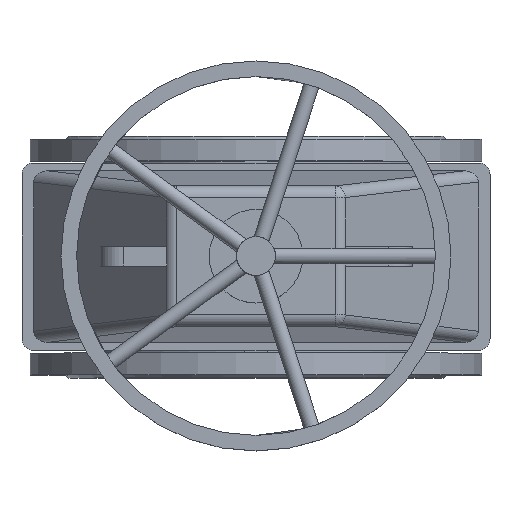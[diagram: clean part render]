
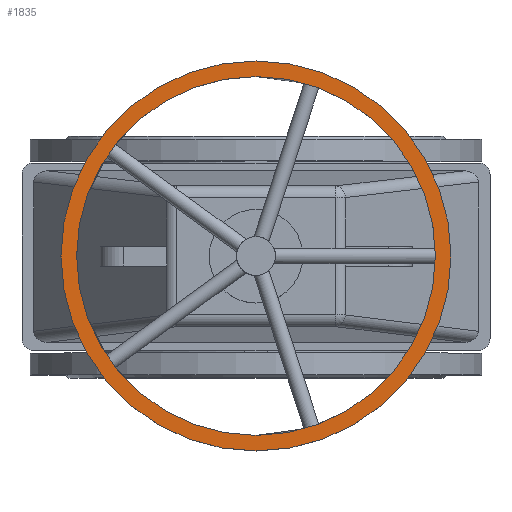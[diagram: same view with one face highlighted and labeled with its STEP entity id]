
A CAD part, top view. The second image highlights one B-rep face of the part: STEP entity #1835.
In plain terms, the highlighted planar face has unit normal (0, 0, 1).
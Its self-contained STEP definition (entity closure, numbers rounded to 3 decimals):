
#1835=ADVANCED_FACE('',(#4340,#4342),#4344,.T.);
#4340=FACE_BOUND('',#4341,.T.);
#4341=EDGE_LOOP('',(#5285));
#4342=FACE_BOUND('',#4343,.T.);
#4343=EDGE_LOOP('',(#5286));
#4344=PLANE('',#4345);
#4345=AXIS2_PLACEMENT_3D('',#4346,#4347,#4348);
#4346=CARTESIAN_POINT('',(0.,0.,950.5));
#4347=DIRECTION('',(0.,0.,1.));
#4348=DIRECTION('',(0.,-1.,0.));
#5285=ORIENTED_EDGE('',*,*,#5751,.T.);
#5286=ORIENTED_EDGE('',*,*,#5749,.T.);
#5749=EDGE_CURVE('',#6531,#6531,#6532,.F.);
#5751=EDGE_CURVE('',#6535,#6535,#6536,.T.);
#6531=VERTEX_POINT('',#10009);
#6532=CIRCLE('',#10010,230.);
#6535=VERTEX_POINT('',#10019);
#6536=CIRCLE('',#10020,250.);
#10009=CARTESIAN_POINT('',(0.,-230.,950.5));
#10010=AXIS2_PLACEMENT_3D('',#10011,#10012,#10013);
#10011=CARTESIAN_POINT('',(0.,0.,950.5));
#10012=DIRECTION('',(0.,0.,1.));
#10013=DIRECTION('',(0.,-1.,0.));
#10019=CARTESIAN_POINT('',(0.,-250.,950.5));
#10020=AXIS2_PLACEMENT_3D('',#10021,#10022,#10023);
#10021=CARTESIAN_POINT('',(0.,0.,950.5));
#10022=DIRECTION('',(0.,0.,1.));
#10023=DIRECTION('',(0.,-1.,0.));
